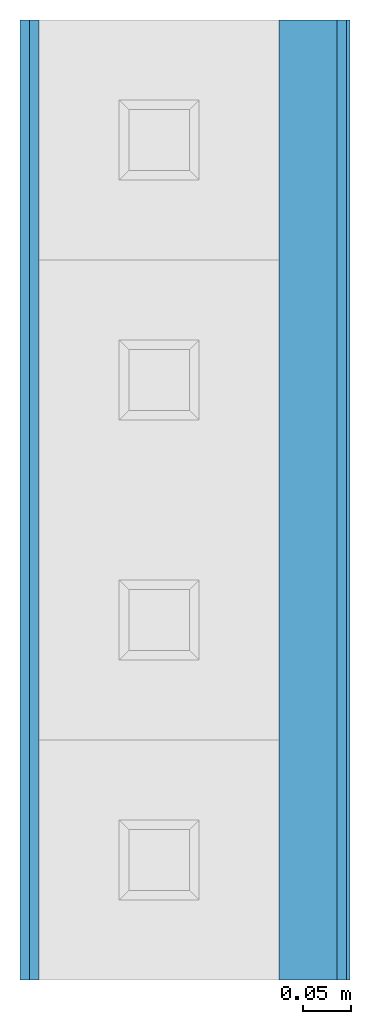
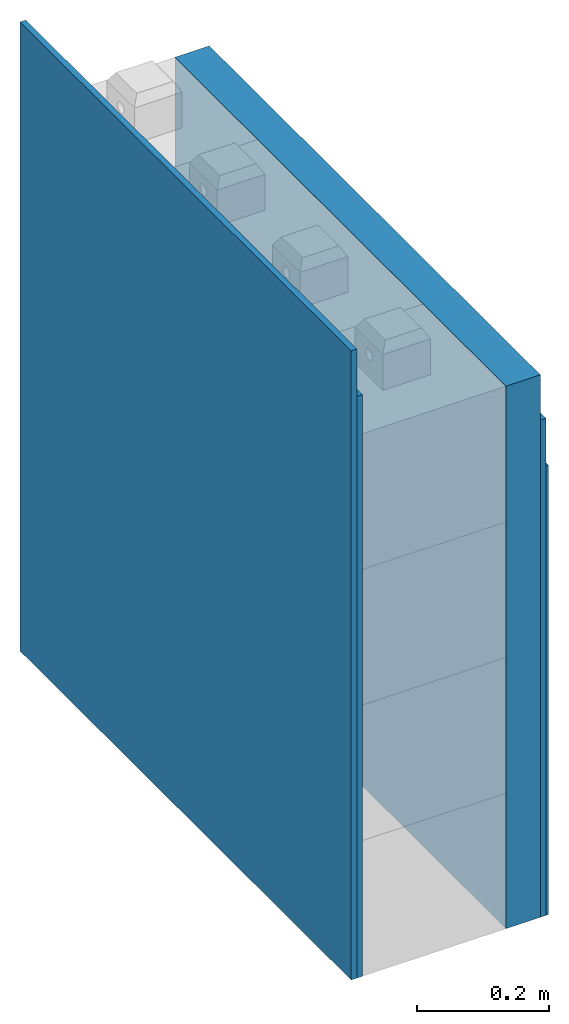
# One storey, incomplete: 5 walls.
"""IFC4 building model written with IfcOpenShell, lengths in centimetres."""

from ifc_helpers import new_model, si_unit, direction, frame, origin, place, context, subcontext, project, spatial, indexed_curve, outline, extrude, material, constituent, constituent_set, type_object, element, save


model = new_model("IFC4")

# Units and contexts
model_context = context("Model", 3, precision=0.001, world=origin(), true_north=direction((0.0, 1.0)))
body_context = subcontext(model_context, "Body", "Model", "MODEL_VIEW")
ifc_project = project(units=[si_unit("LENGTHUNIT", "METRE", prefix="CENTI"), si_unit("AREAUNIT", "SQUARE_METRE"), si_unit("VOLUMEUNIT", "CUBIC_METRE")], contexts=[model_context])

# Site, building, storey
site_placement = place(None, origin())
site = spatial("IfcSite", under=ifc_project, at=site_placement, Name="Default", CompositionType="ELEMENT")
building_placement = place(site_placement, origin())
building = spatial("IfcBuilding", under=site, at=building_placement, CompositionType="ELEMENT")
storey_placement = place(building_placement, frame((0.0, 0.0, -12.0)))
storey = spatial("IfcBuildingStorey", under=building, at=storey_placement, Name="L00__ABOVE Slab", CompositionType="ELEMENT", Elevation=-12.000000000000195)

# Walls
ifc_material_1 = material(Name="_FND LAYERS__Insulation__Foam Glass__Glapor", Category="Unassigned")
ifc_constituent_1 = constituent(ifc_material_1, Name="_FND LAYERS__Insulation__Foam Glass__Glapor", Category="Unassigned", fraction=1.0)
ifc_constituent_set_1 = constituent_set(constituents=[ifc_constituent_1], Name="Basic Wall:wll__WP & INSULATION_1cm")
wall_type_1 = type_object("IfcWallType", Name="Walls : Basic Wall : wll__WP & INSULATION_1cm", PredefinedType="STANDARD", material=ifc_constituent_set_1)
wall_1_placement = place(storey_placement, frame((5025.9731038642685, 1584.8092102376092, 10.0), z_axis=(0.0, 0.0, 1.0), x_axis=(0.0, 1.0, 0.0)))
element("IfcWall", 1, at=wall_1_placement, inside=storey, type_object=wall_type_1, material=ifc_constituent_set_1, Name="Walls : Basic Wall : wll__WP & INSULATION_1cm", PredefinedType="NOTDEFINED", context=body_context, shape_type="SweptSolid", body=[
    extrude(outline(indexed_curve([(100.00000000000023, 0.499999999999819), (4.668391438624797e-15, 0.4999999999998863), (-4.668391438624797e-15, -0.4999999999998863), (100.00000000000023, -0.4999999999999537), (100.00000000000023, 0.499999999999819)], self_intersect=False)), origin(), (0.0, 0.0, 1.0), 91.66666666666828),
])
wall_2_placement = place(storey_placement, frame((4993.973103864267, 1584.8092102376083, 10.0), z_axis=(0.0, 0.0, 1.0), x_axis=(0.0, 1.0, 0.0)))
element("IfcWall", 2, at=wall_2_placement, inside=storey, type_object=wall_type_1, material=ifc_constituent_set_1, Name="Walls : Basic Wall : wll__WP & INSULATION_1cm", PredefinedType="NOTDEFINED", context=body_context, shape_type="SweptSolid", body=[
    extrude(outline(indexed_curve([(100.00000000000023, 0.499999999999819), (4.668391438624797e-15, 0.4999999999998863), (-4.668391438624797e-15, -0.4999999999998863), (100.00000000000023, -0.4999999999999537), (100.00000000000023, 0.499999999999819)], self_intersect=False)), origin(), (0.0, 0.0, 1.0), 107.20293484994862),
])
wall_3_placement = place(storey_placement, frame((4992.973103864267, 1584.8092102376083, 10.0), z_axis=(0.0, 0.0, 1.0), x_axis=(0.0, 1.0, 0.0)))
element("IfcWall", 3, at=wall_3_placement, inside=storey, type_object=wall_type_1, material=ifc_constituent_set_1, Name="Walls : Basic Wall : wll__WP & INSULATION_1cm", PredefinedType="NOTDEFINED", context=body_context, shape_type="SweptSolid", body=[
    extrude(outline(indexed_curve([(100.00000000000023, 0.499999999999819), (4.668391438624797e-15, 0.4999999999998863), (-4.668391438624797e-15, -0.4999999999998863), (100.00000000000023, -0.4999999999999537), (100.00000000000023, 0.499999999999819)], self_intersect=False)), origin(), (0.0, 0.0, 1.0), 115.9712402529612),
])
ifc_material_2 = material(Name="_WLL & CLG FINISHES__Spray-cork", Category="플라스틱")
ifc_constituent_2 = constituent(ifc_material_2, Name="_WLL & CLG FINISHES__Spray-cork", Category="플라스틱", fraction=1.0)
ifc_constituent_set_2 = constituent_set(constituents=[ifc_constituent_2], Name="Basic Wall:wll__INT FINISH__Spritzkork 0.4cm__TriqBriq, TN.1")
wall_type_2 = type_object("IfcWallType", Name="Walls : Basic Wall : wll__INT FINISH__Spritzkork 0.4cm__TriqBriq, TN.1", PredefinedType="STANDARD", material=ifc_constituent_set_2)
wall_4_placement = place(storey_placement, frame((5026.673103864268, 1584.8092102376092, 10.0), z_axis=(0.0, 0.0, 1.0), x_axis=(0.0, 1.0, 0.0)))
element("IfcWall", 4, at=wall_4_placement, inside=storey, type_object=wall_type_2, material=ifc_constituent_set_2, Name="Walls : Basic Wall : wll__INT FINISH__Spritzkork 0.4cm__TriqBriq, TN.1", PredefinedType="NOTDEFINED", context=body_context, shape_type="SweptSolid", body=[
    extrude(outline(indexed_curve([(100.00000000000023, 0.19999999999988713), (1.8673565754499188e-15, 0.19999999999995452), (-1.8673565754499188e-15, -0.19999999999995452), (100.00000000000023, -0.2000000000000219), (100.00000000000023, 0.19999999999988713)], self_intersect=False)), origin(), (0.0, 0.0, 1.0), 82.90025646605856),
])
ifc_material_3 = material(Name="_FCD VENT LAYERS__Insulation__MW, CS(10/y)≥0.5 w/ Wind-proof Veil__Rockwool Airrock HD FB1")
ifc_constituent_3 = constituent(ifc_material_3, Name="_FCD VENT LAYERS__Insulation__MW, CS(10/y)≥0.5 w/ Wind-proof Veil__Rockwool Airrock HD FB1", fraction=1.0)
ifc_constituent_set_3 = constituent_set(constituents=[ifc_constituent_3], Name="Basic Wall:wll__EXT ENCLOSURE__Ventilated, Wood Insulation 6cm__TriqBriq 2")
wall_type_3 = type_object("IfcWallType", Name="Walls : Basic Wall : wll__EXT ENCLOSURE__Ventilated, Wood Insulation 6cm__TriqBriq 2", PredefinedType="STANDARD", material=ifc_constituent_set_3)
wall_5_placement = place(storey_placement, frame((5022.4731038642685, 1684.8092102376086, 10.0), z_axis=(0.0, 0.0, 1.0), x_axis=(0.0, -1.0, 0.0)))
element("IfcWall", 5, at=wall_5_placement, inside=storey, type_object=wall_type_3, material=ifc_constituent_set_3, Name="Walls : Basic Wall : wll__EXT ENCLOSURE__Ventilated, Wood Insulation 6cm__TriqBriq 2", PredefinedType="NOTDEFINED", context=body_context, shape_type="SweptSolid", body=[
    extrude(outline(indexed_curve([(100.00000000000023, 3.0000000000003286), (-4.331468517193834e-15, 3.0000000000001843), (4.331468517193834e-15, -3.0000000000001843), (100.00000000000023, -3.00000000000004), (100.00000000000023, 3.0000000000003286)], self_intersect=False)), origin(), (0.0, 0.0, 1.0), 100.00000000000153),
])

save(model, "model.ifc")
